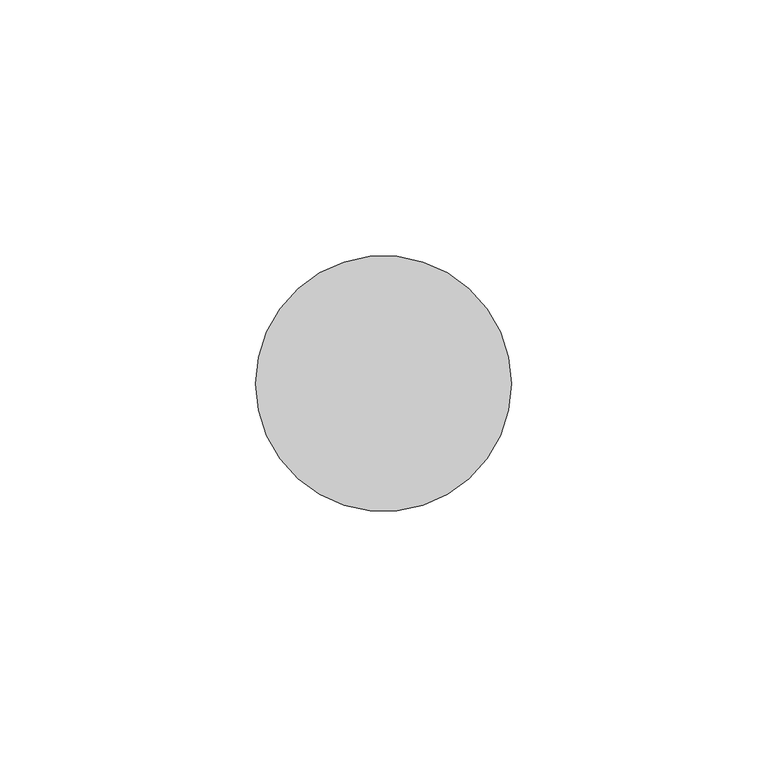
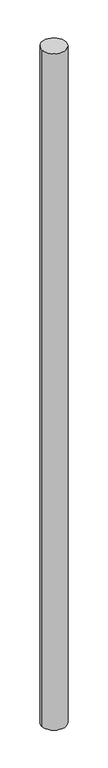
"""IFC4 building model written with IfcOpenShell, lengths in millimetres: member geometry, 圆形竖梃 : 25mm 半径."""

from ifc_helpers import new_model, si_unit, point, frame, frame_2d, origin, place, context, project, spatial, circle_curve, trimmed, segment, composite_curve, outline, extrude, source, transform, mapped, element, save


def member_3b68bbe8(model_context):
    return source(origin(), model_context, "Body", "SweptSolid", [
        extrude(outline(composite_curve([segment(trimmed(circle_curve(frame_2d((-25.0, 0.0)), 25.0), [point((0.0, 0.0))], [point((-50.0, 0.0))], False, "CARTESIAN"), True, "CONTINUOUS"), segment(trimmed(circle_curve(frame_2d((-25.0, 0.0)), 25.0), [point((-50.0, 0.0))], [point((0.0, 0.0))], False, "CARTESIAN"), True, "CONTINUOUS")], self_intersect=False)), frame((0.0, 0.0, -1470.0000003), z_axis=(0.0, 0.0, 1.0), x_axis=(1.0, 0.0, 0.0)), (0.0, 0.0, 1.0), 1470.0000003),
    ])


if __name__ == "__main__":
    model = new_model("IFC4")
    model_context = context("Model", 3, world=origin())
    ifc_project = project(units=[si_unit("LENGTHUNIT", "METRE", prefix="MILLI")], contexts=[model_context])
    site = spatial("IfcSite", under=ifc_project)
    building = spatial("IfcBuilding", under=site)
    placement = place(None, origin())
    member_shape = member_3b68bbe8(model_context)
    element("IfcMember", 1, ObjectType="圆形竖梃 : 25mm 半径", at=placement, inside=building, context=model_context, shape_type="MappedRepresentation", body=[
        mapped(member_shape, transform((0.0, 0.0, 0.0), x_axis=(1.0, 0.0, 0.0), y_axis=(0.0, 1.0, 0.0), z_axis=(0.0, 0.0, 1.0))),
    ])
    save(model, "model.ifc")
